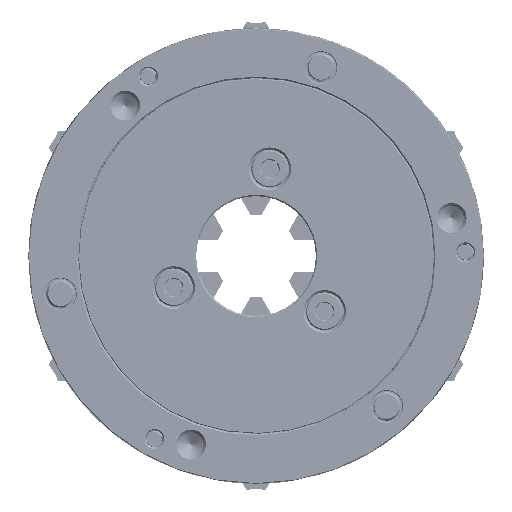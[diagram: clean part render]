
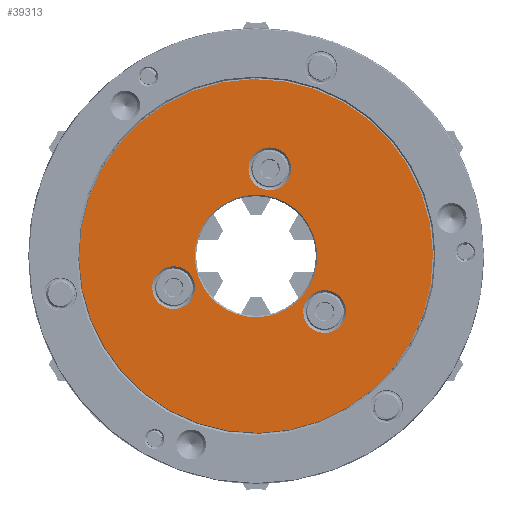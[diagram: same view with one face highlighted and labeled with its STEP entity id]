
A CAD part, front view. The second image highlights one B-rep face of the part: STEP entity #39313.
In plain terms, the highlighted planar face has unit normal (0, -1, 0) as drawn and (-1, 0, 0) by its records, which use the part's own axes.
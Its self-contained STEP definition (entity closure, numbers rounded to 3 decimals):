
#4400 = PLANE ( 'NONE',  #10385 ) ;
#6286 = CARTESIAN_POINT ( 'NONE',  ( 3., 0., -62.15 ) ) ;
#6726 = DIRECTION ( 'NONE',  ( -1., 0., 0. ) ) ;
#10032 = CIRCLE ( 'NONE', #15271, 7.5 ) ;
#10385 = AXIS2_PLACEMENT_3D ( 'NONE', #30218, #55115, #121673 ) ;
#11704 = AXIS2_PLACEMENT_3D ( 'NONE', #152259, #100665, #39912 ) ;
#14505 = EDGE_CURVE ( 'NONE', #77603, #151195, #151051, .T. ) ;
#15271 = AXIS2_PLACEMENT_3D ( 'NONE', #81142, #45327, #133525 ) ;
#16428 = ORIENTED_EDGE ( 'NONE', *, *, #64197, .T. ) ;
#17870 = AXIS2_PLACEMENT_3D ( 'NONE', #60114, #135847, #147541 ) ;
#19374 = FACE_BOUND ( 'NONE', #62120, .T. ) ;
#19419 = CIRCLE ( 'NONE', #38027, 21.5 ) ;
#20194 = FACE_BOUND ( 'NONE', #96662, .T. ) ;
#20622 = CIRCLE ( 'NONE', #129512, 7.5 ) ;
#22470 = DIRECTION ( 'NONE',  ( 0., 0., 1. ) ) ;
#26199 = CARTESIAN_POINT ( 'NONE',  ( 3., 26.847, -23. ) ) ;
#28784 = AXIS2_PLACEMENT_3D ( 'NONE', #142985, #29011, #55541 ) ;
#29011 = DIRECTION ( 'NONE',  ( -1., 0., 0. ) ) ;
#30218 = CARTESIAN_POINT ( 'NONE',  ( 3., 62.4, 0. ) ) ;
#30264 = CIRCLE ( 'NONE', #11704, 7.5 ) ;
#31317 = EDGE_LOOP ( 'NONE', ( #116514, #110310 ) ) ;
#33329 = CARTESIAN_POINT ( 'NONE',  ( 3., 26.847, -15.5 ) ) ;
#35340 = DIRECTION ( 'NONE',  ( 0., 0., -1. ) ) ;
#38027 = AXIS2_PLACEMENT_3D ( 'NONE', #154689, #40703, #129721 ) ;
#39313 = ADVANCED_FACE ( 'NONE', ( #20194, #67626, #19374, #70094, #94250 ), #4400, .F. ) ;
#39912 = DIRECTION ( 'NONE',  ( 0., 0., 1. ) ) ;
#40703 = DIRECTION ( 'NONE',  ( 1., 0., 0. ) ) ;
#41522 = CIRCLE ( 'NONE', #86765, 7.5 ) ;
#45143 = CARTESIAN_POINT ( 'NONE',  ( 3., 0., 31. ) ) ;
#45327 = DIRECTION ( 'NONE',  ( -1., 0., 0. ) ) ;
#45808 = EDGE_CURVE ( 'NONE', #71699, #98671, #109392, .T. ) ;
#50530 = CARTESIAN_POINT ( 'NONE',  ( 3., -26.847, -23. ) ) ;
#51435 = EDGE_LOOP ( 'NONE', ( #66115, #51602 ) ) ;
#51602 = ORIENTED_EDGE ( 'NONE', *, *, #161013, .T. ) ;
#55115 = DIRECTION ( 'NONE',  ( 1., 0., 0. ) ) ;
#55541 = DIRECTION ( 'NONE',  ( 0., 0., -1. ) ) ;
#57824 = CARTESIAN_POINT ( 'NONE',  ( 3., 0., 0. ) ) ;
#58907 = CARTESIAN_POINT ( 'NONE',  ( 3., -26.847, -15.5 ) ) ;
#60114 = CARTESIAN_POINT ( 'NONE',  ( 3., -26.847, -15.5 ) ) ;
#62120 = EDGE_LOOP ( 'NONE', ( #145868, #85938 ) ) ;
#63643 = ORIENTED_EDGE ( 'NONE', *, *, #45808, .T. ) ;
#64197 = EDGE_CURVE ( 'NONE', #98671, #71699, #19419, .T. ) ;
#66115 = ORIENTED_EDGE ( 'NONE', *, *, #14505, .T. ) ;
#66168 = VERTEX_POINT ( 'NONE', #156828 ) ;
#67626 = FACE_OUTER_BOUND ( 'NONE', #51435, .T. ) ;
#70094 = FACE_BOUND ( 'NONE', #31317, .T. ) ;
#70317 = DIRECTION ( 'NONE',  ( 1., 0., 0. ) ) ;
#71699 = VERTEX_POINT ( 'NONE', #80068 ) ;
#74729 = DIRECTION ( 'NONE',  ( -1., 0., 0. ) ) ;
#77603 = VERTEX_POINT ( 'NONE', #6286 ) ;
#78203 = EDGE_CURVE ( 'NONE', #156479, #93206, #156025, .T. ) ;
#80068 = CARTESIAN_POINT ( 'NONE',  ( 3., 0., -21.5 ) ) ;
#81142 = CARTESIAN_POINT ( 'NONE',  ( 3., 0., 31. ) ) ;
#85380 = AXIS2_PLACEMENT_3D ( 'NONE', #45143, #95883, #134138 ) ;
#85938 = ORIENTED_EDGE ( 'NONE', *, *, #106280, .F. ) ;
#86765 = AXIS2_PLACEMENT_3D ( 'NONE', #58907, #159686, #125435 ) ;
#92161 = ORIENTED_EDGE ( 'NONE', *, *, #118994, .F. ) ;
#93206 = VERTEX_POINT ( 'NONE', #50530 ) ;
#94250 = FACE_BOUND ( 'NONE', #129840, .T. ) ;
#95467 = EDGE_CURVE ( 'NONE', #66168, #163401, #151767, .T. ) ;
#95883 = DIRECTION ( 'NONE',  ( -1., 0., 0. ) ) ;
#96662 = EDGE_LOOP ( 'NONE', ( #16428, #63643 ) ) ;
#98671 = VERTEX_POINT ( 'NONE', #119953 ) ;
#100665 = DIRECTION ( 'NONE',  ( -1., 0., 0. ) ) ;
#105500 = VERTEX_POINT ( 'NONE', #26199 ) ;
#106280 = EDGE_CURVE ( 'NONE', #93206, #156479, #41522, .T. ) ;
#109226 = CARTESIAN_POINT ( 'NONE',  ( 3., -26.847, -8. ) ) ;
#109392 = CIRCLE ( 'NONE', #117348, 21.5 ) ;
#110310 = ORIENTED_EDGE ( 'NONE', *, *, #113220, .F. ) ;
#113220 = EDGE_CURVE ( 'NONE', #105500, #153202, #30264, .T. ) ;
#116283 = DIRECTION ( 'NONE',  ( 0., 0., -1. ) ) ;
#116514 = ORIENTED_EDGE ( 'NONE', *, *, #121020, .F. ) ;
#116636 = CARTESIAN_POINT ( 'NONE',  ( 3., 0., 23.5 ) ) ;
#117348 = AXIS2_PLACEMENT_3D ( 'NONE', #57824, #70317, #35340 ) ;
#118994 = EDGE_CURVE ( 'NONE', #163401, #66168, #10032, .T. ) ;
#119953 = CARTESIAN_POINT ( 'NONE',  ( 3., 0., 21.5 ) ) ;
#121020 = EDGE_CURVE ( 'NONE', #153202, #105500, #20622, .T. ) ;
#121673 = DIRECTION ( 'NONE',  ( 0., 0., -1. ) ) ;
#121813 = AXIS2_PLACEMENT_3D ( 'NONE', #141259, #74729, #116283 ) ;
#125435 = DIRECTION ( 'NONE',  ( 0., 0., 1. ) ) ;
#129512 = AXIS2_PLACEMENT_3D ( 'NONE', #33329, #6726, #22470 ) ;
#129721 = DIRECTION ( 'NONE',  ( 0., 0., -1. ) ) ;
#129840 = EDGE_LOOP ( 'NONE', ( #145601, #92161 ) ) ;
#133525 = DIRECTION ( 'NONE',  ( 0., 0., 1. ) ) ;
#134138 = DIRECTION ( 'NONE',  ( 0., 0., 1. ) ) ;
#135847 = DIRECTION ( 'NONE',  ( -1., 0., 0. ) ) ;
#140023 = CARTESIAN_POINT ( 'NONE',  ( 3., 0., 62.15 ) ) ;
#140268 = CIRCLE ( 'NONE', #28784, 62.15 ) ;
#140665 = CARTESIAN_POINT ( 'NONE',  ( 3., 26.847, -8. ) ) ;
#141259 = CARTESIAN_POINT ( 'NONE',  ( 3., 0., 0. ) ) ;
#142985 = CARTESIAN_POINT ( 'NONE',  ( 3., 0., 0. ) ) ;
#145601 = ORIENTED_EDGE ( 'NONE', *, *, #95467, .F. ) ;
#145868 = ORIENTED_EDGE ( 'NONE', *, *, #78203, .F. ) ;
#147541 = DIRECTION ( 'NONE',  ( 0., 0., 1. ) ) ;
#151051 = CIRCLE ( 'NONE', #121813, 62.15 ) ;
#151195 = VERTEX_POINT ( 'NONE', #140023 ) ;
#151767 = CIRCLE ( 'NONE', #85380, 7.5 ) ;
#152259 = CARTESIAN_POINT ( 'NONE',  ( 3., 26.847, -15.5 ) ) ;
#153202 = VERTEX_POINT ( 'NONE', #140665 ) ;
#154689 = CARTESIAN_POINT ( 'NONE',  ( 3., 0., 0. ) ) ;
#156025 = CIRCLE ( 'NONE', #17870, 7.5 ) ;
#156479 = VERTEX_POINT ( 'NONE', #109226 ) ;
#156828 = CARTESIAN_POINT ( 'NONE',  ( 3., 0., 38.5 ) ) ;
#159686 = DIRECTION ( 'NONE',  ( -1., 0., 0. ) ) ;
#161013 = EDGE_CURVE ( 'NONE', #151195, #77603, #140268, .T. ) ;
#163401 = VERTEX_POINT ( 'NONE', #116636 ) ;
